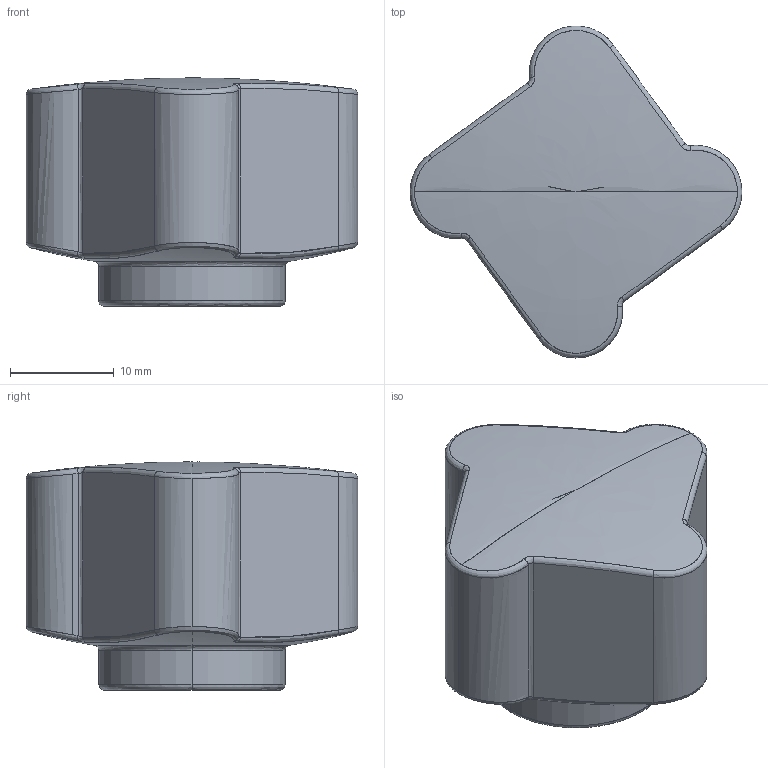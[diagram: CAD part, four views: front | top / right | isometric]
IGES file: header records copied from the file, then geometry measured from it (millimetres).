
Start section: SolidWorks IGES file using analytic representation for surfaces
Global section: file name: C:\Users\Marc\Documents\2 ENGINYERIA\Catalogo 3D\IGS STEP DXF\1120 32 306.IGS; native system: SolidWorks 2010; preprocessor: SolidWorks 2010; author: Marc; date: 101126.162826; units: millimetre
Bounding box: 32 x 32 x 22 mm (x, y, z)
Surface area: 3872 mm2 (no closed solid volume)
Topology: 0 solids, 0 shells, 64 faces, 666 edges, 661 vertices
Faces by surface type: bspline 35, revolution 29
